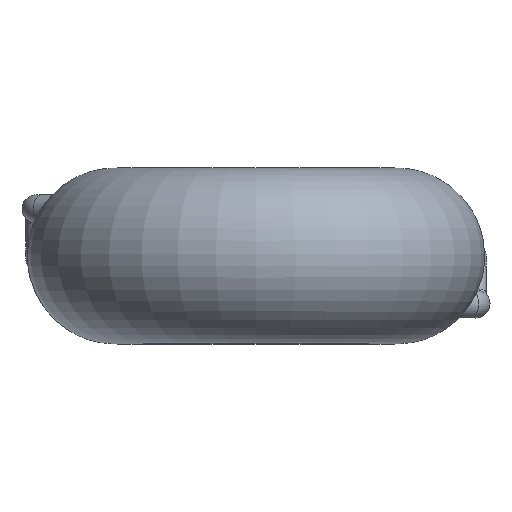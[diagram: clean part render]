
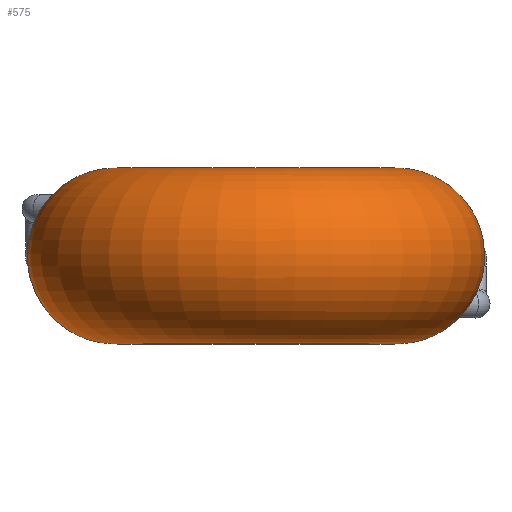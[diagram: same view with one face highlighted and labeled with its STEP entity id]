
A CAD part, top view. The second image highlights one B-rep face of the part: STEP entity #575.
In plain terms, the highlighted toroidal (fillet/blend) face has major radius 4 mm and minor radius 2.5 mm.
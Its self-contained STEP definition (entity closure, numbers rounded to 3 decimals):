
#445=CARTESIAN_POINT('',(4.762,0.468,-4.401));
#446=VERTEX_POINT('',#445);
#477=CARTESIAN_POINT('',(4.762,0.468,-4.401));
#478=CARTESIAN_POINT('',(4.861,0.467,-4.293));
#479=CARTESIAN_POINT('',(5.048,0.403,-4.066));
#480=CARTESIAN_POINT('',(5.216,0.143,-3.767));
#481=CARTESIAN_POINT('',(5.226,-0.204,-3.557));
#482=CARTESIAN_POINT('',(5.083,-0.557,-3.45));
#483=CARTESIAN_POINT('',(4.822,-0.858,-3.445));
#484=CARTESIAN_POINT('',(4.483,-1.081,-3.539));
#485=CARTESIAN_POINT('',(4.11,-1.178,-3.8));
#486=CARTESIAN_POINT('',(3.882,-1.078,-4.194));
#487=CARTESIAN_POINT('',(3.813,-0.855,-4.539));
#488=CARTESIAN_POINT('',(3.838,-0.553,-4.8));
#489=CARTESIAN_POINT('',(3.956,-0.2,-4.933));
#490=CARTESIAN_POINT('',(4.165,0.147,-4.906));
#491=CARTESIAN_POINT('',(4.451,0.405,-4.712));
#492=CARTESIAN_POINT('',(4.662,0.468,-4.508));
#493=CARTESIAN_POINT('',(4.762,0.468,-4.401));
#494=B_SPLINE_CURVE_WITH_KNOTS('',3,(#477,#478,#479,#480,#481,#482,#483,#484,#485,#486,#487,#488,#489,#490,#491,#492,#493),.UNSPECIFIED.,.T.,.U.,(4,1,1,1,1,1,1,1,1,1,1,1,1,1,4),(0.0,0.02,0.04,0.06,0.08,0.1,0.12,0.14,0.16,0.18,0.2,0.22,0.24,0.26,0.28),.UNSPECIFIED.);
#495=EDGE_CURVE('',#446,#446,#494,.T.);
#520=CARTESIAN_POINT('',(0.,0.75,0.));
#521=DIRECTION('',(0.,-1.0,0.));
#522=DIRECTION('',(0.0,0.0,1.0));
#523=AXIS2_PLACEMENT_3D('',#520,#521,#522);
#524=TOROIDAL_SURFACE('',#523,4.0,2.5);
#525=CARTESIAN_POINT('',(0.,3.25,4.0));
#526=VERTEX_POINT('',#525);
#527=CARTESIAN_POINT('',(0.,3.25,0.));
#528=DIRECTION('',(0.0,-1.0,0.0));
#529=DIRECTION('',(0.0,0.0,-1.0));
#530=AXIS2_PLACEMENT_3D('',#527,#528,#529);
#531=CIRCLE('',#530,4.0);
#532=EDGE_CURVE('',#526,#526,#531,.T.);
#533=ORIENTED_EDGE('',*,*,#532,.T.);
#534=EDGE_LOOP('',(#533));
#535=FACE_OUTER_BOUND('',#534,.T.);
#536=CARTESIAN_POINT('',(0.,-1.75,4.0));
#537=VERTEX_POINT('',#536);
#538=CARTESIAN_POINT('',(0.,-1.75,0.));
#539=DIRECTION('',(0.0,1.0,0.0));
#540=DIRECTION('',(0.0,0.0,-1.0));
#541=AXIS2_PLACEMENT_3D('',#538,#539,#540);
#542=CIRCLE('',#541,4.0);
#543=EDGE_CURVE('',#537,#537,#542,.T.);
#544=ORIENTED_EDGE('',*,*,#543,.T.);
#545=EDGE_LOOP('',(#544));
#546=FACE_BOUND('',#545,.T.);
#547=CARTESIAN_POINT('',(-4.762,1.032,-4.401));
#548=VERTEX_POINT('',#547);
#549=CARTESIAN_POINT('',(-4.762,1.032,-4.4));
#550=CARTESIAN_POINT('',(-4.862,1.032,-4.293));
#551=CARTESIAN_POINT('',(-5.048,1.097,-4.066));
#552=CARTESIAN_POINT('',(-5.217,1.357,-3.766));
#553=CARTESIAN_POINT('',(-5.226,1.704,-3.557));
#554=CARTESIAN_POINT('',(-5.083,2.057,-3.449));
#555=CARTESIAN_POINT('',(-4.822,2.359,-3.444));
#556=CARTESIAN_POINT('',(-4.482,2.581,-3.54));
#557=CARTESIAN_POINT('',(-4.109,2.678,-3.801));
#558=CARTESIAN_POINT('',(-3.919,2.595,-4.13));
#559=CARTESIAN_POINT('',(-3.848,2.466,-4.367));
#560=CARTESIAN_POINT('',(-3.816,2.305,-4.584));
#561=CARTESIAN_POINT('',(-3.843,2.003,-4.843));
#562=CARTESIAN_POINT('',(-3.984,1.635,-4.943));
#563=CARTESIAN_POINT('',(-4.213,1.309,-4.873));
#564=CARTESIAN_POINT('',(-4.451,1.095,-4.712));
#565=CARTESIAN_POINT('',(-4.663,1.032,-4.508));
#566=CARTESIAN_POINT('',(-4.762,1.032,-4.4));
#567=B_SPLINE_CURVE_WITH_KNOTS('',3,(#549,#550,#551,#552,#553,#554,#555,#556,#557,#558,#559,#560,#561,#562,#563,#564,#565,#566),.UNSPECIFIED.,.T.,.U.,(4,1,1,1,1,1,1,1,1,1,1,1,1,1,1,4),(0.0,0.02,0.04,0.06,0.08,0.1,0.12,0.14,0.16,0.17,0.18,0.2,0.23,0.24,0.26,0.28),.UNSPECIFIED.);
#568=EDGE_CURVE('',#548,#548,#567,.T.);
#569=ORIENTED_EDGE('',*,*,#568,.F.);
#570=EDGE_LOOP('',(#569));
#571=FACE_BOUND('',#570,.T.);
#572=ORIENTED_EDGE('',*,*,#495,.F.);
#573=EDGE_LOOP('',(#572));
#574=FACE_BOUND('',#573,.T.);
#575=ADVANCED_FACE('',(#535,#546,#571,#574),#524,.T.);
